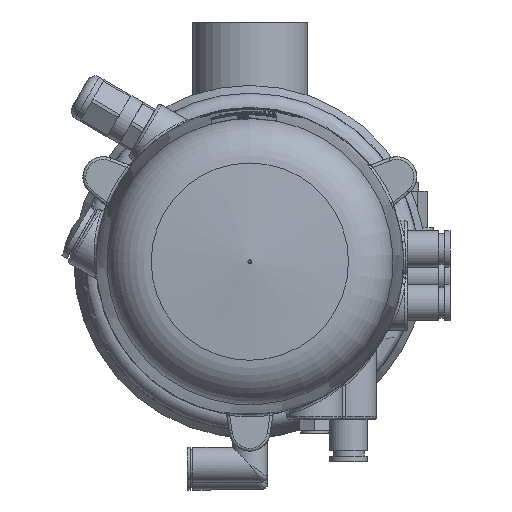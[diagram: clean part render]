
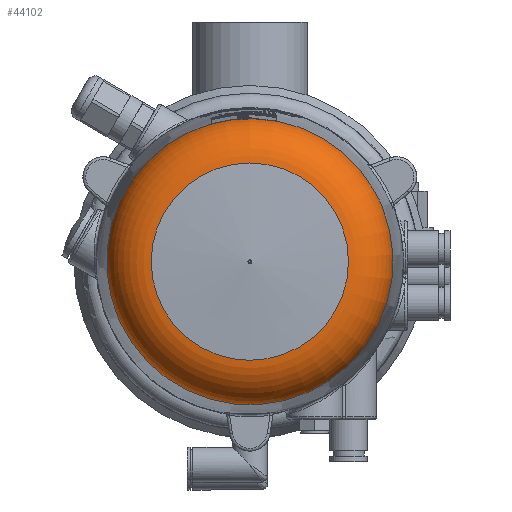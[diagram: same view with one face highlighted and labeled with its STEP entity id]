
A CAD part, front view. The second image highlights one B-rep face of the part: STEP entity #44102.
In plain terms, the highlighted toroidal (fillet/blend) face has major radius 33.812 mm and minor radius 17 mm.
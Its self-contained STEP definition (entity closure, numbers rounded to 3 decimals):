
#3815 = ORIENTED_EDGE ( 'NONE', *, *, #31076, .T. ) ;
#4218 = ORIENTED_EDGE ( 'NONE', *, *, #15707, .F. ) ;
#4234 = VERTEX_POINT ( 'NONE', #19151 ) ;
#8234 = B_SPLINE_CURVE_WITH_KNOTS ( 'NONE', 3,
 ( #39078, #52386, #42685, #62351 ),
 .UNSPECIFIED., .F., .F.,
 ( 4, 4 ),
 ( 0., 0. ),
 .UNSPECIFIED. ) ;
#10190 = FACE_OUTER_BOUND ( 'NONE', #48869, .T. ) ;
#10888 = VERTEX_POINT ( 'NONE', #49636 ) ;
#11387 = CARTESIAN_POINT ( 'NONE',  ( -49.218, 140.463, -12.546 ) ) ;
#11756 = CIRCLE ( 'NONE', #35499, 34.998 ) ;
#13172 = CIRCLE ( 'NONE', #54406, 50.792 ) ;
#15707 = EDGE_CURVE ( 'NONE', #44951, #4234, #8234, .T. ) ;
#17687 = DIRECTION ( 'NONE',  ( 0., 0., -1. ) ) ;
#18136 = DIRECTION ( 'NONE',  ( 0., 1., 0. ) ) ;
#19151 = CARTESIAN_POINT ( 'NONE',  ( -38.517, 140.463, -33.11 ) ) ;
#20111 = TOROIDAL_SURFACE ( 'NONE', #63444, 33.812, 17. ) ;
#20152 = DIRECTION ( 'NONE',  ( 0., 0., -1. ) ) ;
#21042 = ORIENTED_EDGE ( 'NONE', *, *, #45330, .T. ) ;
#21947 = ORIENTED_EDGE ( 'NONE', *, *, #48492, .F. ) ;
#22704 = EDGE_CURVE ( 'NONE', #10888, #10888, #11756, .T. ) ;
#23968 = CARTESIAN_POINT ( 'NONE',  ( 0., 140.491, 0. ) ) ;
#24039 = DIRECTION ( 'NONE',  ( 0., -1., 0. ) ) ;
#26275 = DIRECTION ( 'NONE',  ( 0., -1., 0. ) ) ;
#27523 = DIRECTION ( 'NONE',  ( 0., 0., -1. ) ) ;
#29890 = EDGE_LOOP ( 'NONE', ( #33674 ) ) ;
#30469 = B_SPLINE_CURVE_WITH_KNOTS ( 'NONE', 3,
 ( #50128, #45897, #41041, #50760 ),
 .UNSPECIFIED., .F., .F.,
 ( 4, 4 ),
 ( 0., 0. ),
 .UNSPECIFIED. ) ;
#31076 = EDGE_CURVE ( 'NONE', #44951, #43123, #60228, .T. ) ;
#32353 = AXIS2_PLACEMENT_3D ( 'NONE', #23968, #18136, #27523 ) ;
#33674 = ORIENTED_EDGE ( 'NONE', *, *, #22704, .T. ) ;
#34702 = CARTESIAN_POINT ( 'NONE',  ( 0., 139.629, 0. ) ) ;
#35499 = AXIS2_PLACEMENT_3D ( 'NONE', #62247, #61934, #17687 ) ;
#39078 = CARTESIAN_POINT ( 'NONE',  ( -38.515, 140.491, -33.11 ) ) ;
#39165 = DIRECTION ( 'NONE',  ( 0., 0., -1. ) ) ;
#39546 = CARTESIAN_POINT ( 'NONE',  ( -38.515, 140.491, -33.11 ) ) ;
#41041 = CARTESIAN_POINT ( 'NONE',  ( -49.218, 140.473, -12.546 ) ) ;
#41445 = VERTEX_POINT ( 'NONE', #11387 ) ;
#42685 = CARTESIAN_POINT ( 'NONE',  ( -38.516, 140.473, -33.11 ) ) ;
#43123 = VERTEX_POINT ( 'NONE', #51199 ) ;
#44102 = ADVANCED_FACE ( 'NONE', ( #10190, #44707 ), #20111, .T. ) ;
#44707 = FACE_OUTER_BOUND ( 'NONE', #29890, .T. ) ;
#44951 = VERTEX_POINT ( 'NONE', #39546 ) ;
#45330 = EDGE_CURVE ( 'NONE', #43123, #41445, #30469, .T. ) ;
#45897 = CARTESIAN_POINT ( 'NONE',  ( -49.217, 140.482, -12.546 ) ) ;
#48492 = EDGE_CURVE ( 'NONE', #4234, #41445, #13172, .T. ) ;
#48572 = CARTESIAN_POINT ( 'NONE',  ( 0., 140.463, 0. ) ) ;
#48869 = EDGE_LOOP ( 'NONE', ( #4218, #3815, #21042, #21947 ) ) ;
#49636 = CARTESIAN_POINT ( 'NONE',  ( 0., 156.588, -34.998 ) ) ;
#50128 = CARTESIAN_POINT ( 'NONE',  ( -49.217, 140.491, -12.546 ) ) ;
#50760 = CARTESIAN_POINT ( 'NONE',  ( -49.218, 140.463, -12.546 ) ) ;
#51199 = CARTESIAN_POINT ( 'NONE',  ( -49.217, 140.491, -12.546 ) ) ;
#52386 = CARTESIAN_POINT ( 'NONE',  ( -38.516, 140.482, -33.11 ) ) ;
#54406 = AXIS2_PLACEMENT_3D ( 'NONE', #48572, #24039, #39165 ) ;
#60228 = CIRCLE ( 'NONE', #32353, 50.791 ) ;
#61934 = DIRECTION ( 'NONE',  ( 0., -1., 0. ) ) ;
#62247 = CARTESIAN_POINT ( 'NONE',  ( 0., 156.588, 0. ) ) ;
#62351 = CARTESIAN_POINT ( 'NONE',  ( -38.517, 140.463, -33.11 ) ) ;
#63444 = AXIS2_PLACEMENT_3D ( 'NONE', #34702, #26275, #20152 ) ;
